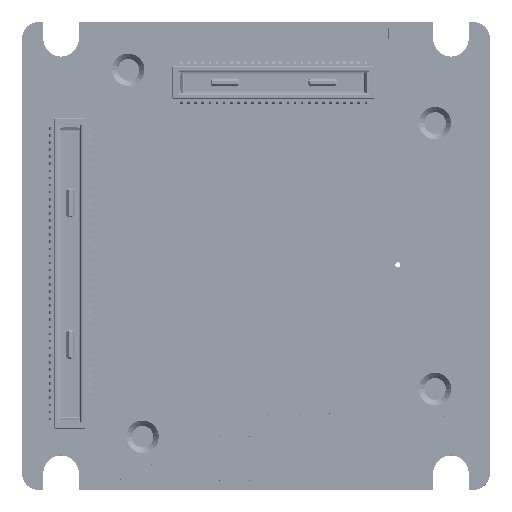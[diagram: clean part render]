
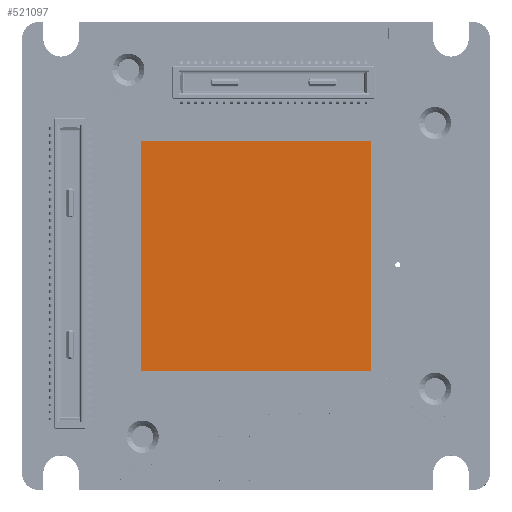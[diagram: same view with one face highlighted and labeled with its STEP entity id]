
A CAD part, top view. The second image highlights one B-rep face of the part: STEP entity #521097.
In plain terms, the highlighted planar face has unit normal (0, 0, 1).
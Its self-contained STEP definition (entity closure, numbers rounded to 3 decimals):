
#12849 = CARTESIAN_POINT ( 'NONE',  ( -6.5, 6.5, 6.167 ) ) ;
#39654 = EDGE_CURVE ( 'NONE', #300014, #568982, #467293, .T. ) ;
#51184 = EDGE_LOOP ( 'NONE', ( #68132, #190624, #744072, #541893 ) ) ;
#68132 = ORIENTED_EDGE ( 'NONE', *, *, #171122, .F. ) ;
#138647 = CARTESIAN_POINT ( 'NONE',  ( -6.5, 6.5, 6.167 ) ) ;
#142718 = CARTESIAN_POINT ( 'NONE',  ( 6.5, -6.5, 6.167 ) ) ;
#171122 = EDGE_CURVE ( 'NONE', #673382, #300014, #578218, .T. ) ;
#185860 = EDGE_CURVE ( 'NONE', #581223, #673382, #667497, .T. ) ;
#190624 = ORIENTED_EDGE ( 'NONE', *, *, #185860, .F. ) ;
#214011 = PLANE ( 'NONE',  #555665 ) ;
#241566 = EDGE_CURVE ( 'NONE', #568982, #581223, #579457, .T. ) ;
#265977 = VECTOR ( 'NONE', #583192, 1000. ) ;
#300014 = VERTEX_POINT ( 'NONE', #387348 ) ;
#387348 = CARTESIAN_POINT ( 'NONE',  ( -6.5, -6.5, 6.167 ) ) ;
#389026 = CARTESIAN_POINT ( 'NONE',  ( 6.5, 6.5, 6.167 ) ) ;
#395092 = DIRECTION ( 'NONE',  ( 0., -1., 0. ) ) ;
#414544 = CARTESIAN_POINT ( 'NONE',  ( -6.5, -6.5, 6.167 ) ) ;
#467293 = LINE ( 'NONE', #414544, #652486 ) ;
#517849 = DIRECTION ( 'NONE',  ( -1., 0., 0. ) ) ;
#521097 = ADVANCED_FACE ( 'NONE', ( #629035 ), #214011, .F. ) ;
#535458 = VECTOR ( 'NONE', #517849, 1000. ) ;
#541893 = ORIENTED_EDGE ( 'NONE', *, *, #39654, .F. ) ;
#555665 = AXIS2_PLACEMENT_3D ( 'NONE', #617992, #564974, #395092 ) ;
#564974 = DIRECTION ( 'NONE',  ( 0., 0., -1. ) ) ;
#568982 = VERTEX_POINT ( 'NONE', #138647 ) ;
#578218 = LINE ( 'NONE', #638604, #535458 ) ;
#579457 = LINE ( 'NONE', #12849, #265977 ) ;
#581223 = VERTEX_POINT ( 'NONE', #389026 ) ;
#583192 = DIRECTION ( 'NONE',  ( 1., 0., 0. ) ) ;
#617992 = CARTESIAN_POINT ( 'NONE',  ( 0., 0., 6.167 ) ) ;
#629035 = FACE_OUTER_BOUND ( 'NONE', #51184, .T. ) ;
#638604 = CARTESIAN_POINT ( 'NONE',  ( 6.5, -6.5, 6.167 ) ) ;
#652486 = VECTOR ( 'NONE', #701522, 1000. ) ;
#666230 = VECTOR ( 'NONE', #678652, 1000. ) ;
#667497 = LINE ( 'NONE', #735335, #666230 ) ;
#673382 = VERTEX_POINT ( 'NONE', #142718 ) ;
#678652 = DIRECTION ( 'NONE',  ( 0., -1., 0. ) ) ;
#701522 = DIRECTION ( 'NONE',  ( 0., 1., 0. ) ) ;
#735335 = CARTESIAN_POINT ( 'NONE',  ( 6.5, 6.5, 6.167 ) ) ;
#744072 = ORIENTED_EDGE ( 'NONE', *, *, #241566, .F. ) ;
